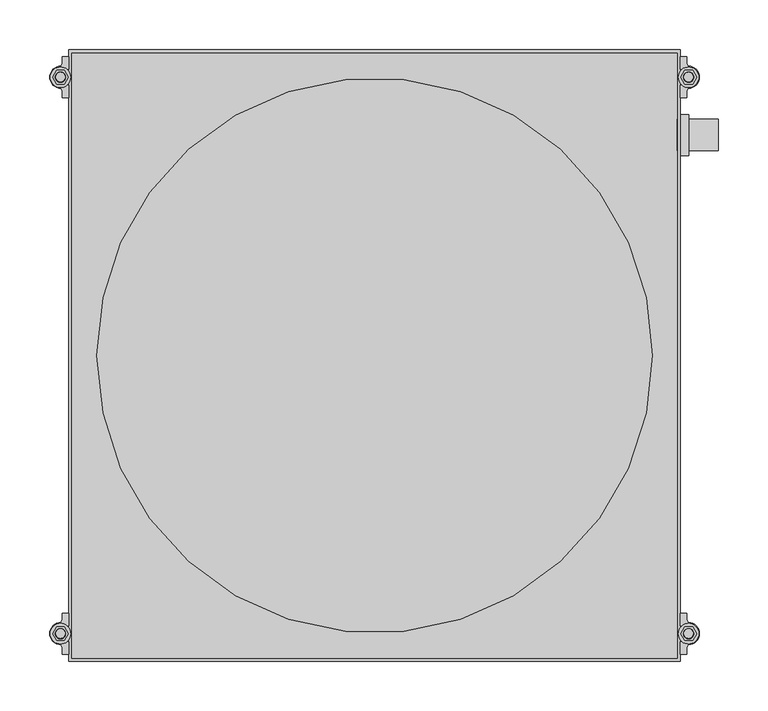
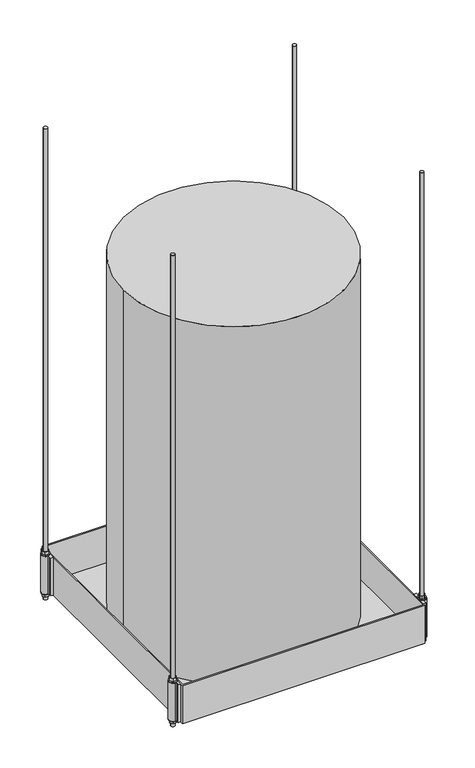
"""IFC4 building model written with IfcOpenShell, lengths in millimetres: proxy geometry, 30 SWHP-M : #30-SWHP-M."""

import ifcopenshell
import ifcopenshell.guid

model = None  # the IFC model being written
_history = None  # IfcOwnerHistory: only IFC2X3 demands one
_inside = {}  # id of a spatial element -> (the spatial element, [elements in it])
_under = {}  # id of a project, library or spatial element -> (it, [spatial elements below it])
_declared = {}  # id of a project -> (the project, [libraries it declares])
_typed = {}  # id of a type object -> (the type object, [elements of that type])
_made_of = {}  # id of a material, layer set ... -> (it, [elements and type objects made of it])


def new_model(schema):
    """Start an empty IFC model of exactly this schema.

    Asked for "IFC4X3", IfcOpenShell would pick the latest addendum, in which some entities
    have other attributes; the version numbers below select the first issue.
    IFC2X3 requires an IfcOwnerHistory on every rooted entity: one is made here for all.
    """
    global model, _history
    if schema == "IFC4X3":
        model = ifcopenshell.file(schema_version=(4, 3, 0, 0))
    else:
        model = ifcopenshell.file(schema=schema)
    _inside.clear()
    _under.clear()
    _declared.clear()
    _typed.clear()
    _made_of.clear()
    _history = None
    if model.schema == "IFC2X3":
        org = make("IfcOrganization", Name="unknown")
        user = make(
            "IfcPersonAndOrganization",
            ThePerson=make("IfcPerson", FamilyName="unknown"),
            TheOrganization=org,
        )
        app = make(
            "IfcApplication",
            ApplicationDeveloper=org,
            Version="unknown",
            ApplicationFullName="unknown",
            ApplicationIdentifier="unknown",
        )
        _history = make(
            "IfcOwnerHistory",
            OwningUser=user,
            OwningApplication=app,
            ChangeAction="ADDED",
            CreationDate=0,
        )
    return model


def make(cls, **values):
    """One entity of the class cls with the attributes given. An attribute that is None is left unset."""
    return model.create_entity(
        cls, **{name: value for name, value in values.items() if value is not None}
    )


def rooted(cls, **values):
    """An entity with a GlobalId (a new one), such as an element, a storey or a relation."""
    return make(cls, GlobalId=ifcopenshell.guid.new(), OwnerHistory=_history, **values)


def si_unit(unit_type, name, prefix=None):
    """IfcSIUnit, for example si_unit("LENGTHUNIT", "METRE", prefix="MILLI")."""
    return make("IfcSIUnit", UnitType=unit_type, Prefix=prefix, Name=name)


def assignment(units):
    """IfcUnitAssignment: the units of a project."""
    return None if units is None else make("IfcUnitAssignment", Units=units)


def point(xyz):
    """IfcCartesianPoint."""
    return None if xyz is None else make("IfcCartesianPoint", Coordinates=xyz)


def direction(xyz):
    """IfcDirection."""
    return None if xyz is None else make("IfcDirection", DirectionRatios=xyz)


def frame(location, z_axis=None, x_axis=None):
    """IfcAxis2Placement3D, a coordinate frame: its origin and axes. An axis left out is left unset."""
    return make(
        "IfcAxis2Placement3D",
        Location=point(location),
        Axis=direction(z_axis),
        RefDirection=direction(x_axis),
    )


def frame_2d(location, x_axis=None):
    """IfcAxis2Placement2D, a coordinate frame in the plane: its origin and x axis."""
    return make(
        "IfcAxis2Placement2D", Location=point(location), RefDirection=direction(x_axis)
    )


def origin():
    """The frame at (0, 0, 0) with its axes left unset."""
    return frame((0.0, 0.0, 0.0))


def origin_with_axes():
    """The frame at (0, 0, 0) with the z axis (0, 0, 1) and the x axis (1, 0, 0) written out."""
    return frame((0.0, 0.0, 0.0), z_axis=(0.0, 0.0, 1.0), x_axis=(1.0, 0.0, 0.0))


def place(relative_to, where):
    """IfcLocalPlacement: puts the frame where relative to a parent placement (None: the world)."""
    return make(
        "IfcLocalPlacement", PlacementRelTo=relative_to, RelativePlacement=where
    )


def context(
    kind, dimensions, precision=None, world=None, true_north=None, identifier=None
):
    """IfcGeometricRepresentationContext, for example the 3D "Model" context."""
    return make(
        "IfcGeometricRepresentationContext",
        ContextIdentifier=identifier,
        ContextType=kind,
        CoordinateSpaceDimension=dimensions,
        Precision=precision,
        WorldCoordinateSystem=world,
        TrueNorth=true_north,
    )


def project(units=None, contexts=None):
    """IfcProject with its units and contexts."""
    return rooted(
        "IfcProject",
        Name="project",
        RepresentationContexts=contexts,
        UnitsInContext=assignment(units),
    )


def spatial(cls, under=None, at=None, **own):
    """A site, building, storey or space (cls), placed at a placement, below another one or the project."""
    s = rooted(cls, ObjectPlacement=at, **own)
    if under is not None:
        _under.setdefault(under.id(), (under, []))[1].append(s)
    return s


def polyline(points):
    """IfcPolyline through the points."""
    return make("IfcPolyline", Points=[point(p) for p in points])


def circle_curve(where, radius):
    """IfcCircle in the frame where."""
    return make("IfcCircle", Position=where, Radius=radius)


def trimmed(basis, trim1, trim2, sense, master):
    """IfcTrimmedCurve: the piece of a basis curve between two trims."""
    return make(
        "IfcTrimmedCurve",
        BasisCurve=basis,
        Trim1=trim1,
        Trim2=trim2,
        SenseAgreement=sense,
        MasterRepresentation=master,
    )


def segment(curve, same_sense, transition):
    """IfcCompositeCurveSegment."""
    return make(
        "IfcCompositeCurveSegment",
        Transition=transition,
        SameSense=same_sense,
        ParentCurve=curve,
    )


def composite_curve(segments, self_intersect=None):
    """IfcCompositeCurve: segments joined end to end."""
    return make("IfcCompositeCurve", Segments=segments, SelfIntersect=self_intersect)


def outline(outer, holes=None, kind="AREA"):
    """IfcArbitraryClosedProfileDef: a profile drawn as a closed curve; with holes, ...WithVoids."""
    if holes is None:
        return make("IfcArbitraryClosedProfileDef", ProfileType=kind, OuterCurve=outer)
    return make(
        "IfcArbitraryProfileDefWithVoids",
        ProfileType=kind,
        OuterCurve=outer,
        InnerCurves=holes,
    )


def extrude(swept, where, along, depth):
    """IfcExtrudedAreaSolid: the profile swept, set in the frame where, extruded along a direction by depth."""
    return make(
        "IfcExtrudedAreaSolid",
        SweptArea=swept,
        Position=where,
        ExtrudedDirection=direction(along),
        Depth=depth,
    )


def shape(context_of_items, identifier, shape_type, items):
    """IfcShapeRepresentation: the items that make up one representation, for example the "Body"."""
    return make(
        "IfcShapeRepresentation",
        ContextOfItems=context_of_items,
        RepresentationIdentifier=identifier,
        RepresentationType=shape_type,
        Items=items,
    )


def source(mapping_origin, context_of_items, identifier, shape_type, items):
    """IfcRepresentationMap: a shape defined once, which mapped items show again and again."""
    return make(
        "IfcRepresentationMap",
        MappingOrigin=mapping_origin,
        MappedRepresentation=shape(context_of_items, identifier, shape_type, items),
    )


def transform(
    local_origin,
    x_axis=None,
    y_axis=None,
    z_axis=None,
    scale=None,
    scale2=None,
    scale3=None,
    uniform=True,
):
    """IfcCartesianTransformationOperator3D, or its non-uniform kind. x_axis, y_axis, z_axis: its Axis1, 2, 3."""
    if uniform:
        return make(
            "IfcCartesianTransformationOperator3D",
            Axis1=direction(x_axis),
            Axis2=direction(y_axis),
            LocalOrigin=point(local_origin),
            Scale=scale,
            Axis3=direction(z_axis),
        )
    return make(
        "IfcCartesianTransformationOperator3DnonUniform",
        Axis1=direction(x_axis),
        Axis2=direction(y_axis),
        LocalOrigin=point(local_origin),
        Scale=scale,
        Axis3=direction(z_axis),
        Scale2=scale2,
        Scale3=scale3,
    )


def mapped(mapping_source, mapping_target):
    """IfcMappedItem: shows the shape of a source again, moved by a transform."""
    return make(
        "IfcMappedItem", MappingSource=mapping_source, MappingTarget=mapping_target
    )


def made_of(thing, what):
    """Note that an element or type object is made of a material, layer set ...; save() writes the relation."""
    if what is not None:
        _made_of.setdefault(what.id(), (what, []))[1].append(thing)
    return thing


def element(
    cls,
    number,
    at=None,
    inside=None,
    cuts=None,
    type_object=None,
    material=None,
    context=None,
    identifier="Body",
    shape_type=None,
    held_by="IfcProductDefinitionShape",
    body=None,
    shapes=None,
    **own,
):
    """One element of the class cls, such as IfcWall. Its Tag is "e" and its number.

    at: its placement. inside: the storey or other place that contains it. cuts: it is an
    opening in that element (IfcRelVoidsElement). A single representation is given by context,
    identifier, shape_type and body (its items); several are given by shapes. held_by: the class
    of the entity that holds the representations. save() writes the other relations.
    """
    e = rooted(cls, Tag="e%d" % number, ObjectPlacement=at, **own)
    if body is not None:
        shapes = [shape(context, identifier, shape_type, body)]
    if shapes is not None:
        e.Representation = make(held_by, Representations=shapes)
    if inside is not None:
        _inside.setdefault(inside.id(), (inside, []))[1].append(e)
    if cuts is not None:
        rooted(
            "IfcRelVoidsElement", RelatingBuildingElement=cuts, RelatedOpeningElement=e
        )
    if type_object is not None:
        _typed.setdefault(type_object.id(), (type_object, []))[1].append(e)
    return made_of(e, material)


def aggregate(whole, parts):
    """IfcRelAggregates: a whole, such as a stair, and the parts it consists of."""
    return rooted("IfcRelAggregates", RelatingObject=whole, RelatedObjects=parts)


def save(model, path):
    """Write the relations noted so far, then the file.

    IfcRelAggregates (storeys below a building ...), IfcRelContainedInSpatialStructure (elements
    in a storey), IfcRelDefinesByType, IfcRelAssociatesMaterial and IfcRelDeclares: one each for
    every whole, place, type object, material and project.
    """
    for whole, parts in _under.values():
        aggregate(whole, parts)
    for where, things in _inside.values():
        rooted(
            "IfcRelContainedInSpatialStructure",
            RelatedElements=things,
            RelatingStructure=where,
        )
    for kind, things in _typed.values():
        rooted("IfcRelDefinesByType", RelatedObjects=things, RelatingType=kind)
    for what, things in _made_of.values():
        rooted("IfcRelAssociatesMaterial", RelatedObjects=things, RelatingMaterial=what)
    for by, libraries in _declared.values():
        rooted("IfcRelDeclares", RelatingContext=by, RelatedDefinitions=libraries)
    model.write(path)


def plane_surface(at):
    """IfcPlane: the flat surface through the origin of the frame at, square to its z axis."""
    return make("IfcPlane", Position=at)


def revolved_surface(curve, axis_point, axis_direction):
    """IfcSurfaceOfRevolution: the curve turned about the line through axis_point along axis_direction."""
    return make(
        "IfcSurfaceOfRevolution",
        SweptCurve=make("IfcArbitraryOpenProfileDef", ProfileType="CURVE", Curve=curve),
        AxisPosition=make("IfcAxis1Placement", Location=point(axis_point), Axis=direction(axis_direction)),
    )


def advanced_brep(points, edges, surfaces, faces):
    """IfcAdvancedBrep: a solid bounded by faces that lie on surfaces and meet in shared edges.

    An edge is (start, end): straight between two places in points (the first is 0);
    or (start, end, curve); or (start, end, curve, False) where it runs against its curve.
    A face is (place in surfaces, loops), or (place, loops, False) where it looks against
    its surface's normal. A loop lists edges by number (the first is 1), with a minus sign
    where the edge is run from its end to its start. The first loop is the outer one.
    """
    corners = [point(p) for p in points]
    vertices = [make("IfcVertexPoint", VertexGeometry=c) for c in corners]
    made = []
    for start, end, *more in edges:
        made.append(
            make(
                "IfcEdgeCurve",
                EdgeStart=vertices[start],
                EdgeEnd=vertices[end],
                EdgeGeometry=more[0] if more else make("IfcPolyline", Points=[corners[start], corners[end]]),
                SameSense=more[1] if len(more) > 1 else True,
            )
        )
    hull = []
    for where, loops, *sense in faces:
        bounds = []
        for j, loop in enumerate(loops):
            ring = [make("IfcOrientedEdge", EdgeElement=made[abs(k) - 1], Orientation=k > 0) for k in loop]
            bounds.append(
                make(
                    "IfcFaceOuterBound" if j == 0 else "IfcFaceBound",
                    Bound=make("IfcEdgeLoop", EdgeList=ring),
                    Orientation=True,
                )
            )
        hull.append(make("IfcAdvancedFace", Bounds=bounds, FaceSurface=surfaces[where], SameSense=sense[0] if sense else True))
    return make("IfcAdvancedBrep", Outer=make("IfcClosedShell", CfsFaces=hull))


def generic_models_fac79ffb(model_context):
    return source(origin(), model_context, "Body", "SolidModel", [
        extrude(outline(composite_curve([segment(trimmed(circle_curve(frame_2d((316.1665358, 585.1906)), 10.31875), [point((305.8477858, 585.1906))], [point((326.4852858, 585.1906))], False, "CARTESIAN"), True, "CONTINUOUS"), segment(trimmed(circle_curve(frame_2d((316.1665358, 585.1906)), 10.31875), [point((326.4852858, 585.1906))], [point((305.8477858, 585.1906))], False, "CARTESIAN"), True, "CONTINUOUS")], self_intersect=False), holes=[composite_curve([segment(trimmed(circle_curve(frame_2d((316.1665358, 585.1906)), 5.159375), [point((311.0071608, 585.1906))], [point((321.3259108, 585.1906))], True, "CARTESIAN"), True, "CONTINUOUS"), segment(trimmed(circle_curve(frame_2d((316.1665358, 585.1906)), 5.159375), [point((321.3259108, 585.1906))], [point((311.0071608, 585.1906))], True, "CARTESIAN"), True, "CONTINUOUS")], self_intersect=False)]), frame((0.0, 0.0, -1.5875), z_axis=(0.0, 0.0, 1.0), x_axis=(1.0, 0.0, 0.0)), (0.0, 0.0, 1.0), 1.5875),
        extrude(outline(polyline([(312.1977858, 578.3165234), (308.2290358, 585.1906), (312.1977858, 592.0646766), (320.1352858, 592.0646766), (324.1040358, 585.1906), (320.1352858, 578.3165234), (312.1977858, 578.3165234)]), holes=[composite_curve([segment(trimmed(circle_curve(frame_2d((316.1665358, 585.1906)), 5.159375), [point((311.0071608, 585.1906))], [point((321.3259108, 585.1906))], True, "CARTESIAN"), True, "CONTINUOUS"), segment(trimmed(circle_curve(frame_2d((316.1665358, 585.1906)), 5.159375), [point((321.3259108, 585.1906))], [point((311.0071608, 585.1906))], True, "CARTESIAN"), True, "CONTINUOUS")], self_intersect=False)]), frame((0.0, 0.0, -9.525), z_axis=(0.0, 0.0, 1.0), x_axis=(1.0, 0.0, 0.0)), (0.0, 0.0, 1.0), 7.9375),
        extrude(outline(composite_curve([segment(trimmed(circle_curve(frame_2d((316.1665358, 585.1906)), 10.31875), [point((305.8477858, 585.1906))], [point((326.4852858, 585.1906))], False, "CARTESIAN"), True, "CONTINUOUS"), segment(trimmed(circle_curve(frame_2d((316.1665358, 585.1906)), 10.31875), [point((326.4852858, 585.1906))], [point((305.8477858, 585.1906))], False, "CARTESIAN"), True, "CONTINUOUS")], self_intersect=False), holes=[composite_curve([segment(trimmed(circle_curve(frame_2d((316.1665358, 585.1906)), 5.159375), [point((311.0071608, 585.1906))], [point((321.3259108, 585.1906))], True, "CARTESIAN"), True, "CONTINUOUS"), segment(trimmed(circle_curve(frame_2d((316.1665358, 585.1906)), 5.159375), [point((321.3259108, 585.1906))], [point((311.0071608, 585.1906))], True, "CARTESIAN"), True, "CONTINUOUS")], self_intersect=False)]), frame((0.0, 0.0, 101.6), z_axis=(0.0, 0.0, 1.0), x_axis=(1.0, 0.0, 0.0)), (0.0, 0.0, 1.0), 1.5875),
        extrude(outline(polyline([(312.1977858, 578.3165234), (308.2290358, 585.1906), (312.1977858, 592.0646766), (320.1352858, 592.0646766), (324.1040358, 585.1906), (320.1352858, 578.3165234), (312.1977858, 578.3165234)]), holes=[composite_curve([segment(trimmed(circle_curve(frame_2d((316.1665358, 585.1906)), 5.159375), [point((311.0071608, 585.1906))], [point((321.3259108, 585.1906))], True, "CARTESIAN"), True, "CONTINUOUS"), segment(trimmed(circle_curve(frame_2d((316.1665358, 585.1906)), 5.159375), [point((321.3259108, 585.1906))], [point((311.0071608, 585.1906))], True, "CARTESIAN"), True, "CONTINUOUS")], self_intersect=False)]), frame((0.0, 0.0, 103.1875), z_axis=(0.0, 0.0, 1.0), x_axis=(1.0, 0.0, 0.0)), (0.0, 0.0, 1.0), 7.9375),
        extrude(outline(composite_curve([segment(trimmed(circle_curve(frame_2d((-316.1665358, 585.1906)), 10.31875), [point((-305.8477858, 585.1906))], [point((-326.4852858, 585.1906))], False, "CARTESIAN"), True, "CONTINUOUS"), segment(trimmed(circle_curve(frame_2d((-316.1665358, 585.1906)), 10.31875), [point((-326.4852858, 585.1906))], [point((-305.8477858, 585.1906))], False, "CARTESIAN"), True, "CONTINUOUS")], self_intersect=False), holes=[composite_curve([segment(trimmed(circle_curve(frame_2d((-316.1665358, 585.1906)), 5.159375), [point((-311.0071608, 585.1906))], [point((-321.3259108, 585.1906))], True, "CARTESIAN"), True, "CONTINUOUS"), segment(trimmed(circle_curve(frame_2d((-316.1665358, 585.1906)), 5.159375), [point((-321.3259108, 585.1906))], [point((-311.0071608, 585.1906))], True, "CARTESIAN"), True, "CONTINUOUS")], self_intersect=False)]), frame((0.0, 0.0, -1.5875), z_axis=(0.0, 0.0, 1.0), x_axis=(1.0, 0.0, 0.0)), (0.0, 0.0, 1.0), 1.5875),
        extrude(outline(polyline([(-312.1977858, 578.3165234), (-320.1352858, 578.3165234), (-324.1040358, 585.1906), (-320.1352858, 592.0646766), (-312.1977858, 592.0646766), (-308.2290358, 585.1906), (-312.1977858, 578.3165234)]), holes=[composite_curve([segment(trimmed(circle_curve(frame_2d((-316.1665358, 585.1906)), 5.159375), [point((-311.0071608, 585.1906))], [point((-321.3259108, 585.1906))], True, "CARTESIAN"), True, "CONTINUOUS"), segment(trimmed(circle_curve(frame_2d((-316.1665358, 585.1906)), 5.159375), [point((-321.3259108, 585.1906))], [point((-311.0071608, 585.1906))], True, "CARTESIAN"), True, "CONTINUOUS")], self_intersect=False)]), frame((0.0, 0.0, -9.525), z_axis=(0.0, 0.0, 1.0), x_axis=(1.0, 0.0, 0.0)), (0.0, 0.0, 1.0), 7.9375),
        extrude(outline(composite_curve([segment(trimmed(circle_curve(frame_2d((-316.1665358, 585.1906)), 10.31875), [point((-305.8477858, 585.1906))], [point((-326.4852858, 585.1906))], False, "CARTESIAN"), True, "CONTINUOUS"), segment(trimmed(circle_curve(frame_2d((-316.1665358, 585.1906)), 10.31875), [point((-326.4852858, 585.1906))], [point((-305.8477858, 585.1906))], False, "CARTESIAN"), True, "CONTINUOUS")], self_intersect=False), holes=[composite_curve([segment(trimmed(circle_curve(frame_2d((-316.1665358, 585.1906)), 5.159375), [point((-311.0071608, 585.1906))], [point((-321.3259108, 585.1906))], True, "CARTESIAN"), True, "CONTINUOUS"), segment(trimmed(circle_curve(frame_2d((-316.1665358, 585.1906)), 5.159375), [point((-321.3259108, 585.1906))], [point((-311.0071608, 585.1906))], True, "CARTESIAN"), True, "CONTINUOUS")], self_intersect=False)]), frame((0.0, 0.0, 101.6), z_axis=(0.0, 0.0, 1.0), x_axis=(1.0, 0.0, 0.0)), (0.0, 0.0, 1.0), 1.5875),
        extrude(outline(polyline([(-312.1977858, 578.3165234), (-320.1352858, 578.3165234), (-324.1040358, 585.1906), (-320.1352858, 592.0646766), (-312.1977858, 592.0646766), (-308.2290358, 585.1906), (-312.1977858, 578.3165234)]), holes=[composite_curve([segment(trimmed(circle_curve(frame_2d((-316.1665358, 585.1906)), 5.159375), [point((-311.0071608, 585.1906))], [point((-321.3259108, 585.1906))], True, "CARTESIAN"), True, "CONTINUOUS"), segment(trimmed(circle_curve(frame_2d((-316.1665358, 585.1906)), 5.159375), [point((-321.3259108, 585.1906))], [point((-311.0071608, 585.1906))], True, "CARTESIAN"), True, "CONTINUOUS")], self_intersect=False)]), frame((0.0, 0.0, 103.1875), z_axis=(0.0, 0.0, 1.0), x_axis=(1.0, 0.0, 0.0)), (0.0, 0.0, 1.0), 7.9375),
        extrude(outline(composite_curve([segment(trimmed(circle_curve(frame_2d((-316.1665358, 24.60625)), 10.31875), [point((-305.8477858, 24.60625))], [point((-326.4852858, 24.60625))], False, "CARTESIAN"), True, "CONTINUOUS"), segment(trimmed(circle_curve(frame_2d((-316.1665358, 24.60625)), 10.31875), [point((-326.4852858, 24.60625))], [point((-305.8477858, 24.60625))], False, "CARTESIAN"), True, "CONTINUOUS")], self_intersect=False), holes=[composite_curve([segment(trimmed(circle_curve(frame_2d((-316.1665358, 24.60625)), 5.159375), [point((-311.0071608, 24.60625))], [point((-321.3259108, 24.60625))], True, "CARTESIAN"), True, "CONTINUOUS"), segment(trimmed(circle_curve(frame_2d((-316.1665358, 24.60625)), 5.159375), [point((-321.3259108, 24.60625))], [point((-311.0071608, 24.60625))], True, "CARTESIAN"), True, "CONTINUOUS")], self_intersect=False)]), frame((0.0, 0.0, -1.5875), z_axis=(0.0, 0.0, 1.0), x_axis=(1.0, 0.0, 0.0)), (0.0, 0.0, 1.0), 1.5875),
        extrude(outline(polyline([(-312.1977858, 31.4803266), (-308.2290358, 24.60625), (-312.1977858, 17.7321734), (-320.1352858, 17.7321734), (-324.1040358, 24.60625), (-320.1352858, 31.4803266), (-312.1977858, 31.4803266)]), holes=[composite_curve([segment(trimmed(circle_curve(frame_2d((-316.1665358, 24.60625)), 5.159375), [point((-311.0071608, 24.60625))], [point((-321.3259108, 24.60625))], True, "CARTESIAN"), True, "CONTINUOUS"), segment(trimmed(circle_curve(frame_2d((-316.1665358, 24.60625)), 5.159375), [point((-321.3259108, 24.60625))], [point((-311.0071608, 24.60625))], True, "CARTESIAN"), True, "CONTINUOUS")], self_intersect=False)]), frame((0.0, 0.0, -9.525), z_axis=(0.0, 0.0, 1.0), x_axis=(1.0, 0.0, 0.0)), (0.0, 0.0, 1.0), 7.9375),
        extrude(outline(composite_curve([segment(trimmed(circle_curve(frame_2d((-316.1665358, 24.60625)), 10.31875), [point((-305.8477858, 24.60625))], [point((-326.4852858, 24.60625))], False, "CARTESIAN"), True, "CONTINUOUS"), segment(trimmed(circle_curve(frame_2d((-316.1665358, 24.60625)), 10.31875), [point((-326.4852858, 24.60625))], [point((-305.8477858, 24.60625))], False, "CARTESIAN"), True, "CONTINUOUS")], self_intersect=False), holes=[composite_curve([segment(trimmed(circle_curve(frame_2d((-316.1665358, 24.60625)), 5.159375), [point((-311.0071608, 24.60625))], [point((-321.3259108, 24.60625))], True, "CARTESIAN"), True, "CONTINUOUS"), segment(trimmed(circle_curve(frame_2d((-316.1665358, 24.60625)), 5.159375), [point((-321.3259108, 24.60625))], [point((-311.0071608, 24.60625))], True, "CARTESIAN"), True, "CONTINUOUS")], self_intersect=False)]), frame((0.0, 0.0, 101.6), z_axis=(0.0, 0.0, 1.0), x_axis=(1.0, 0.0, 0.0)), (0.0, 0.0, 1.0), 1.5875),
        extrude(outline(polyline([(-312.1977858, 31.4803266), (-308.2290358, 24.60625), (-312.1977858, 17.7321734), (-320.1352858, 17.7321734), (-324.1040358, 24.60625), (-320.1352858, 31.4803266), (-312.1977858, 31.4803266)]), holes=[composite_curve([segment(trimmed(circle_curve(frame_2d((-316.1665358, 24.60625)), 5.159375), [point((-311.0071608, 24.60625))], [point((-321.3259108, 24.60625))], True, "CARTESIAN"), True, "CONTINUOUS"), segment(trimmed(circle_curve(frame_2d((-316.1665358, 24.60625)), 5.159375), [point((-321.3259108, 24.60625))], [point((-311.0071608, 24.60625))], True, "CARTESIAN"), True, "CONTINUOUS")], self_intersect=False)]), frame((0.0, 0.0, 103.1875), z_axis=(0.0, 0.0, 1.0), x_axis=(1.0, 0.0, 0.0)), (0.0, 0.0, 1.0), 7.9375),
        extrude(outline(composite_curve([segment(trimmed(circle_curve(frame_2d((316.1665358, 24.60625)), 10.31875), [point((305.8477858, 24.60625))], [point((326.4852858, 24.60625))], False, "CARTESIAN"), True, "CONTINUOUS"), segment(trimmed(circle_curve(frame_2d((316.1665358, 24.60625)), 10.31875), [point((326.4852858, 24.60625))], [point((305.8477858, 24.60625))], False, "CARTESIAN"), True, "CONTINUOUS")], self_intersect=False), holes=[composite_curve([segment(trimmed(circle_curve(frame_2d((316.1665358, 24.60625)), 5.159375), [point((311.0071608, 24.60625))], [point((321.3259108, 24.60625))], True, "CARTESIAN"), True, "CONTINUOUS"), segment(trimmed(circle_curve(frame_2d((316.1665358, 24.60625)), 5.159375), [point((321.3259108, 24.60625))], [point((311.0071608, 24.60625))], True, "CARTESIAN"), True, "CONTINUOUS")], self_intersect=False)]), frame((0.0, 0.0, -1.5875), z_axis=(0.0, 0.0, 1.0), x_axis=(1.0, 0.0, 0.0)), (0.0, 0.0, 1.0), 1.5875),
        extrude(outline(polyline([(312.1977858, 31.4803266), (320.1352858, 31.4803266), (324.1040358, 24.60625), (320.1352858, 17.7321734), (312.1977858, 17.7321734), (308.2290358, 24.60625), (312.1977858, 31.4803266)]), holes=[composite_curve([segment(trimmed(circle_curve(frame_2d((316.1665358, 24.60625)), 5.159375), [point((311.0071608, 24.60625))], [point((321.3259108, 24.60625))], True, "CARTESIAN"), True, "CONTINUOUS"), segment(trimmed(circle_curve(frame_2d((316.1665358, 24.60625)), 5.159375), [point((321.3259108, 24.60625))], [point((311.0071608, 24.60625))], True, "CARTESIAN"), True, "CONTINUOUS")], self_intersect=False)]), frame((0.0, 0.0, -9.525), z_axis=(0.0, 0.0, 1.0), x_axis=(1.0, 0.0, 0.0)), (0.0, 0.0, 1.0), 7.9375),
        extrude(outline(composite_curve([segment(trimmed(circle_curve(frame_2d((316.1665358, 24.60625)), 10.31875), [point((305.8477858, 24.60625))], [point((326.4852858, 24.60625))], False, "CARTESIAN"), True, "CONTINUOUS"), segment(trimmed(circle_curve(frame_2d((316.1665358, 24.60625)), 10.31875), [point((326.4852858, 24.60625))], [point((305.8477858, 24.60625))], False, "CARTESIAN"), True, "CONTINUOUS")], self_intersect=False), holes=[composite_curve([segment(trimmed(circle_curve(frame_2d((316.1665358, 24.60625)), 5.159375), [point((311.0071608, 24.60625))], [point((321.3259108, 24.60625))], True, "CARTESIAN"), True, "CONTINUOUS"), segment(trimmed(circle_curve(frame_2d((316.1665358, 24.60625)), 5.159375), [point((321.3259108, 24.60625))], [point((311.0071608, 24.60625))], True, "CARTESIAN"), True, "CONTINUOUS")], self_intersect=False)]), frame((0.0, 0.0, 101.6), z_axis=(0.0, 0.0, 1.0), x_axis=(1.0, 0.0, 0.0)), (0.0, 0.0, 1.0), 1.5875),
        extrude(outline(polyline([(312.1977858, 31.4803266), (320.1352858, 31.4803266), (324.1040358, 24.60625), (320.1352858, 17.7321734), (312.1977858, 17.7321734), (308.2290358, 24.60625), (312.1977858, 31.4803266)]), holes=[composite_curve([segment(trimmed(circle_curve(frame_2d((316.1665358, 24.60625)), 5.159375), [point((311.0071608, 24.60625))], [point((321.3259108, 24.60625))], True, "CARTESIAN"), True, "CONTINUOUS"), segment(trimmed(circle_curve(frame_2d((316.1665358, 24.60625)), 5.159375), [point((321.3259108, 24.60625))], [point((311.0071608, 24.60625))], True, "CARTESIAN"), True, "CONTINUOUS")], self_intersect=False)]), frame((0.0, 0.0, 103.1875), z_axis=(0.0, 0.0, 1.0), x_axis=(1.0, 0.0, 0.0)), (0.0, 0.0, 1.0), 7.9375),
        extrude(outline(composite_curve([segment(polyline([(-314.3249758, 564.5531), (-314.3249758, 570.9030939), (-315.9124879, 574.0781)]), True, "CONTINUOUS"), segment(trimmed(circle_curve(frame_2d((-315.9199003, 585.1905939)), 11.1124964), [point((-315.9124879, 574.0781))], [point((-315.9124879, 596.3030879))], False, "CARTESIAN"), True, "CONTINUOUS"), segment(polyline([(-315.9124879, 596.3030879), (-314.3249758, 599.4780939), (-314.3249758, 605.8280879), (-307.975, 605.8280879), (-307.975, 593.1281), (-315.9124879, 593.1281)]), True, "CONTINUOUS"), segment(trimmed(circle_curve(frame_2d((-316.1675139, 585.1905939)), 7.9416019), [point((-315.9124879, 593.1281))], [point((-315.9124879, 577.2530879))], True, "CARTESIAN"), True, "CONTINUOUS"), segment(polyline([(-315.9124879, 577.2530879), (-307.975, 577.2530879), (-307.975, 564.5531), (-314.3249758, 564.5531)]), True, "CONTINUOUS")], self_intersect=False)), origin_with_axes(), (0.0, 0.0, 1.0), 101.6),
        extrude(outline(composite_curve([segment(polyline([(-314.3249758, 3.96875), (-314.3249758, 10.3187439), (-315.9124879, 13.49375)]), True, "CONTINUOUS"), segment(trimmed(circle_curve(frame_2d((-315.9199003, 24.6062439)), 11.1124964), [point((-315.9124879, 13.49375))], [point((-315.9124879, 35.7187379))], False, "CARTESIAN"), True, "CONTINUOUS"), segment(polyline([(-315.9124879, 35.7187379), (-314.3249758, 38.8937439), (-314.3249758, 45.2437379), (-307.975, 45.2437379), (-307.975, 32.54375), (-315.9124879, 32.54375)]), True, "CONTINUOUS"), segment(trimmed(circle_curve(frame_2d((-316.1675139, 24.6062439)), 7.9416019), [point((-315.9124879, 32.54375))], [point((-315.9124879, 16.6687379))], True, "CARTESIAN"), True, "CONTINUOUS"), segment(polyline([(-315.9124879, 16.6687379), (-307.975, 16.6687379), (-307.975, 3.96875), (-314.3249758, 3.96875)]), True, "CONTINUOUS")], self_intersect=False)), origin_with_axes(), (0.0, 0.0, 1.0), 101.6),
        extrude(outline(composite_curve([segment(polyline([(314.3249758, 564.5531), (307.975, 564.5531), (307.975, 577.2530879), (315.9124879, 577.2530879)]), True, "CONTINUOUS"), segment(trimmed(circle_curve(frame_2d((316.1675139, 585.1905939)), 7.9416019), [point((315.9124879, 577.2530879))], [point((315.9124879, 593.1281))], True, "CARTESIAN"), True, "CONTINUOUS"), segment(polyline([(315.9124879, 593.1281), (307.975, 593.1281), (307.975, 605.8280879), (314.3249758, 605.8280879), (314.3249758, 599.4780939), (315.9124879, 596.3030879)]), True, "CONTINUOUS"), segment(trimmed(circle_curve(frame_2d((315.9199003, 585.1905939)), 11.1124964), [point((315.9124879, 596.3030879))], [point((315.9124879, 574.0781))], False, "CARTESIAN"), True, "CONTINUOUS"), segment(polyline([(315.9124879, 574.0781), (314.3249758, 570.9030939), (314.3249758, 564.5531)]), True, "CONTINUOUS")], self_intersect=False)), origin_with_axes(), (0.0, 0.0, 1.0), 101.6),
        extrude(outline(composite_curve([segment(polyline([(314.3249758, 3.96875), (307.975, 3.96875), (307.975, 16.6687379), (315.9124879, 16.6687379)]), True, "CONTINUOUS"), segment(trimmed(circle_curve(frame_2d((316.1675139, 24.6062439)), 7.9416019), [point((315.9124879, 16.6687379))], [point((315.9124879, 32.54375))], True, "CARTESIAN"), True, "CONTINUOUS"), segment(polyline([(315.9124879, 32.54375), (307.975, 32.54375), (307.975, 45.2437379), (314.3249758, 45.2437379), (314.3249758, 38.8937439), (315.9124879, 35.7187379)]), True, "CONTINUOUS"), segment(trimmed(circle_curve(frame_2d((315.9199003, 24.6062439)), 11.1124964), [point((315.9124879, 35.7187379))], [point((315.9124879, 13.49375))], False, "CARTESIAN"), True, "CONTINUOUS"), segment(polyline([(315.9124879, 13.49375), (314.3249758, 10.3187439), (314.3249758, 3.96875)]), True, "CONTINUOUS")], self_intersect=False)), origin_with_axes(), (0.0, 0.0, 1.0), 101.6),
        extrude(outline(composite_curve([segment(trimmed(circle_curve(frame_2d((0.0, 304.8)), 279.4), [point((-279.4, 304.8))], [point((279.4, 304.8))], False, "CARTESIAN"), True, "CONTINUOUS"), segment(trimmed(circle_curve(frame_2d((0.0, 304.8)), 279.4), [point((279.4, 304.8))], [point((-279.4, 304.8))], False, "CARTESIAN"), True, "CONTINUOUS")], self_intersect=False)), frame((0.0, 0.0, 3.175), z_axis=(0.0, 0.0, 1.0), x_axis=(1.0, 0.0, 0.0)), (0.0, 0.0, 1.0), 962.025),
        extrude(outline(composite_curve([segment(trimmed(circle_curve(frame_2d((527.05, 25.9953125)), 20.6375), [point((506.4125, 25.9953125))], [point((547.6875, 25.9953125))], False, "CARTESIAN"), True, "CONTINUOUS"), segment(trimmed(circle_curve(frame_2d((527.05, 25.9953125)), 20.6375), [point((547.6875, 25.9953125))], [point((506.4125, 25.9953125))], False, "CARTESIAN"), True, "CONTINUOUS")], self_intersect=False), holes=[composite_curve([segment(trimmed(circle_curve(frame_2d((527.05, 25.9953125)), 15.875), [point((511.175, 25.9953125))], [point((542.925, 25.9953125))], True, "CARTESIAN"), True, "CONTINUOUS"), segment(trimmed(circle_curve(frame_2d((527.05, 25.9953125)), 15.875), [point((542.925, 25.9953125))], [point((511.175, 25.9953125))], True, "CARTESIAN"), True, "CONTINUOUS")], self_intersect=False)]), frame((307.975, 0.0, 0.0), z_axis=(1.0, 0.0, 0.0), x_axis=(0.0, 1.0, 0.0)), (0.0, 0.0, 1.0), 8.1915358),
        extrude(outline(composite_curve([segment(trimmed(circle_curve(frame_2d((527.05, 25.9953125)), 15.875), [point((511.175, 25.9953125))], [point((542.925, 25.9953125))], False, "CARTESIAN"), True, "CONTINUOUS"), segment(trimmed(circle_curve(frame_2d((527.05, 25.9953125)), 15.875), [point((542.925, 25.9953125))], [point((511.175, 25.9953125))], False, "CARTESIAN"), True, "CONTINUOUS")], self_intersect=False), holes=[composite_curve([segment(trimmed(circle_curve(frame_2d((527.05, 25.9953125)), 12.7), [point((514.35, 25.9953125))], [point((539.75, 25.9953125))], True, "CARTESIAN"), True, "CONTINUOUS"), segment(trimmed(circle_curve(frame_2d((527.05, 25.9953125)), 12.7), [point((539.75, 25.9953125))], [point((514.35, 25.9953125))], True, "CARTESIAN"), True, "CONTINUOUS")], self_intersect=False)]), frame((304.8, 0.0, 0.0), z_axis=(1.0, 0.0, 0.0), x_axis=(0.0, 1.0, 0.0)), (0.0, 0.0, 1.0), 41.275),
        advanced_brep(
        [(304.8, 0.0, 3.175), (304.8, 609.6, 3.175), (-304.8, 609.6, 3.175), (-304.8, 0.0, 3.175), (307.975, -3.175, 0.0), (-307.975, -3.175, 0.0), (-307.975, 612.775, 0.0), (307.975, 612.775, 0.0), (307.975, -3.175, 101.6), (307.975, 612.775, 101.6), (-307.975, 612.775, 101.6), (-307.975, -3.175, 101.6), (304.8, 609.6, 101.6), (304.8, 0.0, 101.6), (-304.8, 0.0, 101.6), (-304.8, 609.6, 101.6), (304.8, 511.175, 25.9953125), (304.8, 542.925, 25.9953125), (307.975, 542.925, 25.9953125), (307.975, 511.175, 25.9953125)],
        [
            (0, 1),
            (1, 2),
            (2, 3),
            (3, 0),
            (4, 5),
            (5, 6),
            (6, 7),
            (7, 4),
            (8, 9),
            (9, 10),
            (10, 11),
            (11, 8),
            (12, 13),
            (13, 14),
            (14, 15),
            (15, 12),
            (12, 1),
            (0, 13),
            (16, 17, circle_curve(frame((304.8, 527.05, 25.9953125), z_axis=(1.0, 0.0, 0.0), x_axis=(0.0, 1.0, 0.0)), 15.875)),
            (17, 16, circle_curve(frame((304.8, 527.05, 25.9953125), z_axis=(1.0, 0.0, 0.0), x_axis=(0.0, 1.0, 0.0)), 15.875)),
            (3, 14),
            (2, 15),
            (8, 4),
            (7, 9),
            (18, 19, circle_curve(frame((307.975, 527.05, 25.9953125), z_axis=(-1.0, 0.0, 0.0), x_axis=(0.0, 1.0, 0.0)), 15.875)),
            (19, 18, circle_curve(frame((307.975, 527.05, 25.9953125), z_axis=(-1.0, 0.0, 0.0), x_axis=(0.0, 1.0, 0.0)), 15.875)),
            (6, 10),
            (5, 11),
            (16, 19),
            (18, 17),
        ],
        [
            plane_surface(frame((-304.8, 609.6, 3.175), z_axis=(0.0, 0.0, 1.0), x_axis=(-1.0, 0.0, 0.0))),
            plane_surface(frame((-304.8, 609.6, 0.0), z_axis=(0.0, 0.0, -1.0), x_axis=(1.0, 0.0, 0.0))),
            plane_surface(frame((304.8, 609.6, 101.6), z_axis=(0.0, 0.0, 1.0), x_axis=(0.0, -1.0, 0.0))),
            plane_surface(frame((304.8, 609.6, 101.6), z_axis=(-1.0, 0.0, 0.0), x_axis=(0.0, 0.0, -1.0))),
            plane_surface(frame((304.8, 0.0, 101.6), z_axis=(0.0, 1.0, 0.0), x_axis=(0.0, 0.0, -1.0))),
            plane_surface(frame((-304.8, 0.0, 101.6), z_axis=(1.0, 0.0, 0.0), x_axis=(0.0, 0.0, -1.0))),
            plane_surface(frame((-304.8, 609.6, 101.6), z_axis=(0.0, -1.0, 0.0), x_axis=(0.0, 0.0, -1.0))),
            plane_surface(frame((307.975, -3.175, 101.6), z_axis=(1.0, 0.0, 0.0), x_axis=(0.0, 0.0, -1.0))),
            plane_surface(frame((307.975, 612.775, 101.6), z_axis=(0.0, 1.0, 0.0), x_axis=(0.0, 0.0, -1.0))),
            plane_surface(frame((-307.975, 612.775, 101.6), z_axis=(-1.0, 0.0, 0.0), x_axis=(0.0, 0.0, -1.0))),
            plane_surface(frame((-307.975, -3.175, 101.6), z_axis=(0.0, -1.0, 0.0), x_axis=(0.0, 0.0, -1.0))),
            revolved_surface(polyline([(307.975, 542.925, 25.9953125), (304.8, 542.925, 25.9953125)]), (0.0, 527.05, 25.9953125), (1.0, 0.0, 0.0)),
        ],
        [
            (0, [[1, 2, 3, 4]]),
            (1, [[5, 6, 7, 8]]),
            (2, [[9, 10, 11, 12], [13, 14, 15, 16]]),
            (3, [[-13, 17, -1, 18], [19, 20]]),
            (4, [[-14, -18, -4, 21]]),
            (5, [[-15, -21, -3, 22]]),
            (6, [[-16, -22, -2, -17]]),
            (7, [[-9, 23, -8, 24], [25, 26]]),
            (8, [[-10, -24, -7, 27]]),
            (9, [[-11, -27, -6, 28]]),
            (10, [[-12, -28, -5, -23]]),
            (11, [[29, -25, 30, -19]]),
            (11, [[-29, -20, -30, -26]]),
        ],
    ),
        extrude(outline(composite_curve([segment(trimmed(circle_curve(frame_2d((316.1665358, 585.1905939)), 4.7625), [point((320.9290358, 585.1905939))], [point((311.4040358, 585.1905939))], False, "CARTESIAN"), True, "CONTINUOUS"), segment(trimmed(circle_curve(frame_2d((316.1665358, 585.1905939)), 4.7625), [point((311.4040358, 585.1905939))], [point((320.9290358, 585.1905939))], False, "CARTESIAN"), True, "CONTINUOUS")], self_intersect=False)), frame((0.0, 0.0, -19.05), z_axis=(0.0, 0.0, 1.0), x_axis=(1.0, 0.0, 0.0)), (0.0, 0.0, 1.0), 1263.65),
        extrude(outline(composite_curve([segment(trimmed(circle_curve(frame_2d((-316.1665358, 585.1905939)), 4.7625), [point((-320.9290358, 585.1905939))], [point((-311.4040358, 585.1905939))], False, "CARTESIAN"), True, "CONTINUOUS"), segment(trimmed(circle_curve(frame_2d((-316.1665358, 585.1905939)), 4.7625), [point((-311.4040358, 585.1905939))], [point((-320.9290358, 585.1905939))], False, "CARTESIAN"), True, "CONTINUOUS")], self_intersect=False)), frame((0.0, 0.0, -19.05), z_axis=(0.0, 0.0, 1.0), x_axis=(1.0, 0.0, 0.0)), (0.0, 0.0, 1.0), 1263.65),
        extrude(outline(composite_curve([segment(trimmed(circle_curve(frame_2d((-316.1665358, 24.6062439)), 4.7625), [point((-311.4040358, 24.6062439))], [point((-320.9290358, 24.6062439))], False, "CARTESIAN"), True, "CONTINUOUS"), segment(trimmed(circle_curve(frame_2d((-316.1665358, 24.6062439)), 4.7625), [point((-320.9290358, 24.6062439))], [point((-311.4040358, 24.6062439))], False, "CARTESIAN"), True, "CONTINUOUS")], self_intersect=False)), frame((0.0, 0.0, -19.05), z_axis=(0.0, 0.0, 1.0), x_axis=(1.0, 0.0, 0.0)), (0.0, 0.0, 1.0), 1263.65),
        extrude(outline(composite_curve([segment(trimmed(circle_curve(frame_2d((316.1665358, 24.6062439)), 4.7625), [point((311.4040358, 24.6062439))], [point((320.9290358, 24.6062439))], False, "CARTESIAN"), True, "CONTINUOUS"), segment(trimmed(circle_curve(frame_2d((316.1665358, 24.6062439)), 4.7625), [point((320.9290358, 24.6062439))], [point((311.4040358, 24.6062439))], False, "CARTESIAN"), True, "CONTINUOUS")], self_intersect=False)), frame((0.0, 0.0, -19.05), z_axis=(0.0, 0.0, 1.0), x_axis=(1.0, 0.0, 0.0)), (0.0, 0.0, 1.0), 1263.65),
    ])


if __name__ == "__main__":
    model = new_model("IFC4")
    model_context = context("Model", 3, world=origin())
    ifc_project = project(units=[si_unit("LENGTHUNIT", "METRE", prefix="MILLI")], contexts=[model_context])
    site = spatial("IfcSite", under=ifc_project)
    building = spatial("IfcBuilding", under=site)
    placement = place(None, origin())
    generic_models_shape = generic_models_fac79ffb(model_context)
    element("IfcBuildingElementProxy", 1, Name="30 SWHP-M : #30-SWHP-M", ObjectType="30 SWHP-M : #30-SWHP-M", at=placement, inside=building, context=model_context, shape_type="MappedRepresentation", body=[
        mapped(generic_models_shape, transform((0.0, 0.0, 0.0), x_axis=(1.0, 0.0, 0.0), y_axis=(0.0, 1.0, 0.0), z_axis=(0.0, 0.0, 1.0))),
    ])
    save(model, "model.ifc")
